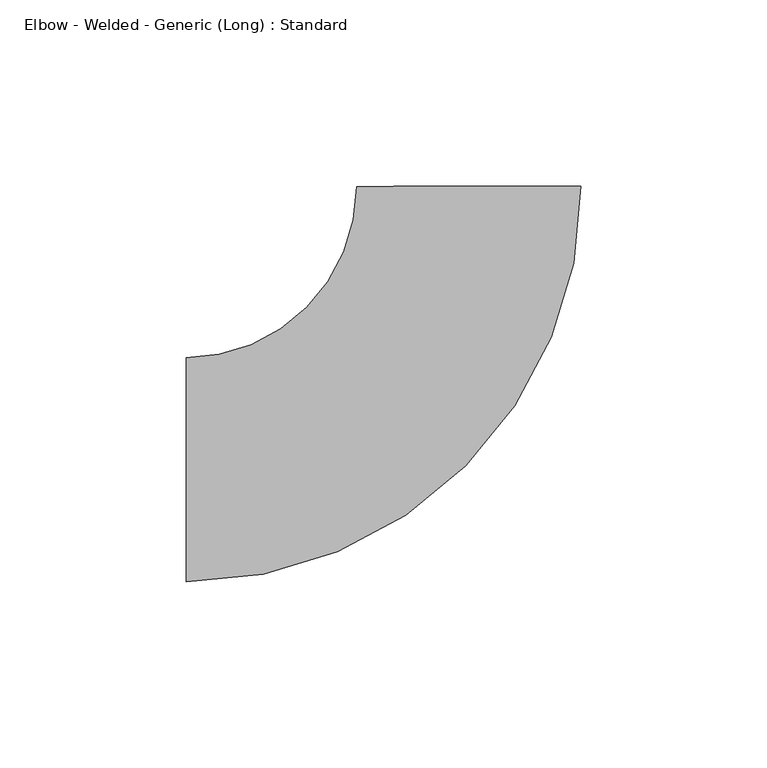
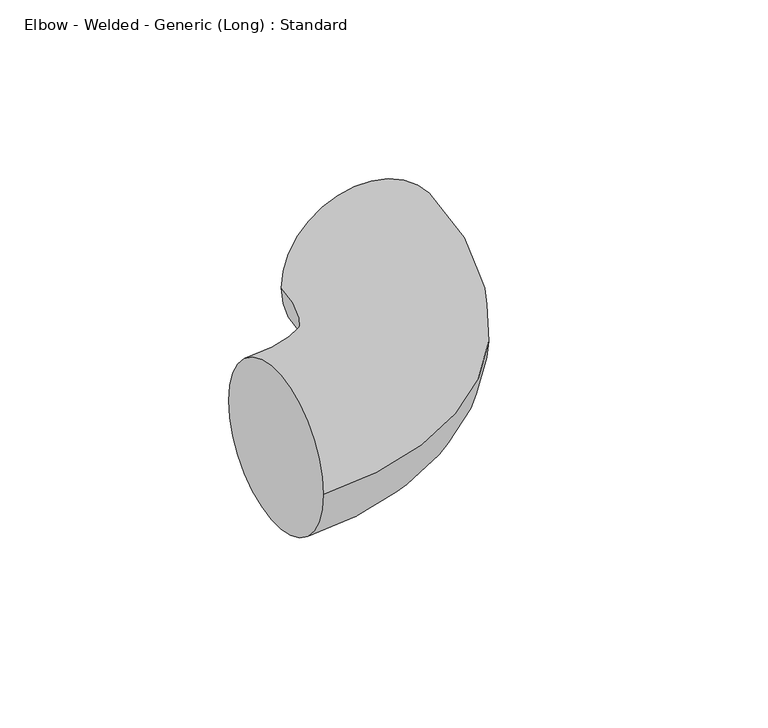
"""IFC4 building model written with IfcOpenShell, lengths in millimetres: pipe fitting geometry, Elbow - Welded - Generic (Long) : Standard."""

from ifc_helpers import new_model, si_unit, point, frame, origin, place, context, project, spatial, circle_curve, ellipse_curve, trimmed, source, transform, mapped, element, save
from ifc_brep_helpers import plane_surface, revolved_surface, advanced_brep


def elbow_welded_generic_long_standard_e8960525(model_context):
    return source(origin(), model_context, "Body", "AdvancedBrep", [
        advanced_brep(
        [(-76.2, -30.1625, 0.0), (-76.2, 30.1625, 0.0), (29.9698455, 76.2759776, 0.0), (-30.3549618, 76.1235358, 0.0)],
        [
            (0, 1, circle_curve(frame((-76.2, 0.0, 0.0), z_axis=(-1.0, 0.0, 0.0), x_axis=(0.0, 1.0, 0.0)), 30.1625)),
            (1, 0, circle_curve(frame((-76.2, 0.0, 0.0), z_axis=(-1.0, 0.0, 0.0), x_axis=(0.0, 1.0, 0.0)), 30.1625)),
            (2, 3, circle_curve(frame((-0.1925581, 76.1997567, 0.0), z_axis=(-0.0025270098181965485, 0.9999968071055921, 0.0), x_axis=(-0.9999968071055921, -0.0025270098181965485, 0.0)), 30.1625)),
            (3, 2, circle_curve(frame((-0.1925581, 76.1997567, 0.0), z_axis=(-0.0025270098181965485, 0.9999968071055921, 0.0), x_axis=(-0.9999968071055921, -0.0025270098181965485, 0.0)), 30.1625)),
            (3, 1, circle_curve(frame((-76.2, 76.0076845, 0.0), z_axis=(0.0, 0.0, -1.0), x_axis=(0.0, -1.0, 0.0)), 45.8451845)),
            (0, 2, circle_curve(frame((-76.2, 76.0076845, 0.0), z_axis=(0.0, 0.0, 1.0), x_axis=(0.0, -1.0, 0.0)), 106.1701845)),
        ],
        [
            plane_surface(frame((-76.2, 0.0, 0.0), z_axis=(-1.0, 0.0, 0.0), x_axis=(0.0, 0.0, 1.0))),
            plane_surface(frame((-0.1925581, 76.1997567, 0.0), z_axis=(-0.0025270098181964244, 0.9999968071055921, 0.0), x_axis=(0.0, 0.0, 1.0))),
            revolved_surface(trimmed(ellipse_curve(frame((-76.2, 0.0, 0.0), z_axis=(-1.0, 0.0, 0.0), x_axis=(0.0, 1.0, 0.0)), 30.1625, 30.1625), [point((-76.2, -30.1625, 0.0))], [point((-76.2, 30.1625, 0.0))], True, "CARTESIAN"), (-76.2, 76.0076845, 0.0), (0.0, 0.0, 1.0)),
            revolved_surface(trimmed(ellipse_curve(frame((-76.2, 0.0, 0.0), z_axis=(-1.0, 0.0, 0.0), x_axis=(0.0, 1.0, 0.0)), 30.1625, 30.1625), [point((-76.2, 30.1625, 0.0))], [point((-76.2, -30.1625, 0.0))], True, "CARTESIAN"), (-76.2, 76.0076845, 0.0), (0.0, 0.0, 1.0)),
        ],
        [
            (0, [[1, 2]]),
            (1, [[3, 4]]),
            (2, [[5, -1, 6, -4]]),
            (3, [[-6, -2, -5, -3]]),
        ],
    ),
    ])


if __name__ == "__main__":
    model = new_model("IFC4")
    model_context = context("Model", 3, world=origin())
    ifc_project = project(units=[si_unit("LENGTHUNIT", "METRE", prefix="MILLI")], contexts=[model_context])
    site = spatial("IfcSite", under=ifc_project)
    building = spatial("IfcBuilding", under=site)
    placement = place(None, origin())
    elbow_welded_generic_long_standard_shape = elbow_welded_generic_long_standard_e8960525(model_context)
    element("IfcPipeFitting", 1, ObjectType="Elbow - Welded - Generic (Long) : Standard", at=placement, inside=building, context=model_context, shape_type="MappedRepresentation", body=[
        mapped(elbow_welded_generic_long_standard_shape, transform((0.0, 0.0, 0.0), x_axis=(1.0, 0.0, 0.0), y_axis=(0.0, 1.0, 0.0), z_axis=(0.0, 0.0, 1.0))),
    ])
    save(model, "model.ifc")
